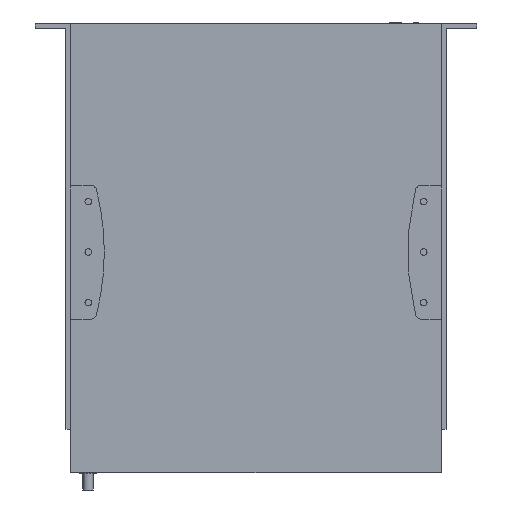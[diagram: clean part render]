
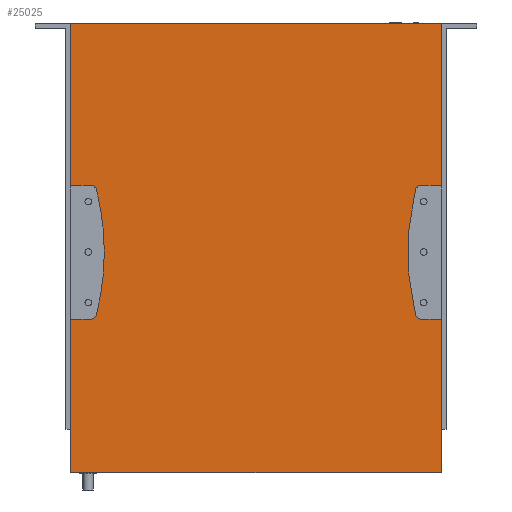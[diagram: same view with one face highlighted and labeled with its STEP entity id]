
A CAD part, front view. The second image highlights one B-rep face of the part: STEP entity #25025.
In plain terms, the highlighted planar face has unit normal (0, -1, 0).
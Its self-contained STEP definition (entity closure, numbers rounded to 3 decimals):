
#200 = VERTEX_POINT ( 'NONE', #12041 ) ;
#451 = VERTEX_POINT ( 'NONE', #23998 ) ;
#642 = CARTESIAN_POINT ( 'NONE',  ( -110.07, -21.8, 133.295 ) ) ;
#735 = CARTESIAN_POINT ( 'NONE',  ( 98.378, -21.8, 37.5 ) ) ;
#1147 = CARTESIAN_POINT ( 'NONE',  ( -110.07, -21.8, 37.5 ) ) ;
#1976 = ORIENTED_EDGE ( 'NONE', *, *, #27019, .F. ) ;
#2018 = EDGE_CURVE ( 'NONE', #8592, #12194, #12405, .T. ) ;
#2043 = CIRCLE ( 'NONE', #9199, 149.8 ) ;
#2244 = VECTOR ( 'NONE', #13650, 1000. ) ;
#2313 = LINE ( 'NONE', #26977, #15128 ) ;
#2439 = EDGE_CURVE ( 'NONE', #3579, #5953, #6241, .T. ) ;
#2989 = CIRCLE ( 'NONE', #15888, 3.8 ) ;
#3000 = AXIS2_PLACEMENT_3D ( 'NONE', #24774, #15666, #10720 ) ;
#3080 = LINE ( 'NONE', #12188, #21717 ) ;
#3166 = DIRECTION ( 'NONE',  ( 1., 0., 0. ) ) ;
#3579 = VERTEX_POINT ( 'NONE', #6889 ) ;
#3904 = LINE ( 'NONE', #29282, #22609 ) ;
#4401 = DIRECTION ( 'NONE',  ( -1., 0., 0. ) ) ;
#4437 = VERTEX_POINT ( 'NONE', #735 ) ;
#4547 = EDGE_CURVE ( 'NONE', #4437, #13054, #4924, .T. ) ;
#4557 = CARTESIAN_POINT ( 'NONE',  ( 110.07, -21.8, 133.295 ) ) ;
#4924 = CIRCLE ( 'NONE', #3000, 3.8 ) ;
#4982 = DIRECTION ( 'NONE',  ( 0., 1., 0. ) ) ;
#5336 = CARTESIAN_POINT ( 'NONE',  ( -98.378, -21.8, -42.1 ) ) ;
#5590 = ORIENTED_EDGE ( 'NONE', *, *, #18403, .T. ) ;
#5646 = EDGE_LOOP ( 'NONE', ( #1976, #28243, #22172, #9528, #19518, #9094, #6579, #22085, #26302, #25399, #23699, #12736, #24189, #11889, #6294, #22659, #5590 ) ) ;
#5842 = CARTESIAN_POINT ( 'NONE',  ( 110.07, -21.8, -42.1 ) ) ;
#5953 = VERTEX_POINT ( 'NONE', #21155 ) ;
#6119 = CARTESIAN_POINT ( 'NONE',  ( -98.378, -21.8, 33.7 ) ) ;
#6241 = CIRCLE ( 'NONE', #13842, 149.8 ) ;
#6294 = ORIENTED_EDGE ( 'NONE', *, *, #19382, .F. ) ;
#6499 = EDGE_CURVE ( 'NONE', #21455, #7834, #3080, .T. ) ;
#6579 = ORIENTED_EDGE ( 'NONE', *, *, #17112, .F. ) ;
#6731 = VERTEX_POINT ( 'NONE', #11138 ) ;
#6795 = LINE ( 'NONE', #4557, #2244 ) ;
#6889 = CARTESIAN_POINT ( 'NONE',  ( -94.695, -21.8, -39.237 ) ) ;
#6925 = CIRCLE ( 'NONE', #16905, 149.8 ) ;
#7255 = CARTESIAN_POINT ( 'NONE',  ( -98.378, -21.8, -42.1 ) ) ;
#7430 = CARTESIAN_POINT ( 'NONE',  ( -110.07, -21.8, 133.295 ) ) ;
#7834 = VERTEX_POINT ( 'NONE', #5842 ) ;
#8031 = CARTESIAN_POINT ( 'NONE',  ( 110.07, -21.8, 133.295 ) ) ;
#8485 = VERTEX_POINT ( 'NONE', #18335 ) ;
#8592 = VERTEX_POINT ( 'NONE', #7430 ) ;
#8914 = LINE ( 'NONE', #18026, #21594 ) ;
#9094 = ORIENTED_EDGE ( 'NONE', *, *, #27003, .F. ) ;
#9118 = CARTESIAN_POINT ( 'NONE',  ( 94.695, -21.8, -39.237 ) ) ;
#9199 = AXIS2_PLACEMENT_3D ( 'NONE', #10027, #14800, #10624 ) ;
#9528 = ORIENTED_EDGE ( 'NONE', *, *, #23748, .F. ) ;
#9696 = DIRECTION ( 'NONE',  ( 0., -1., 0. ) ) ;
#9734 = VERTEX_POINT ( 'NONE', #1147 ) ;
#9778 = CARTESIAN_POINT ( 'NONE',  ( 110.07, -21.8, 133.295 ) ) ;
#9852 = VECTOR ( 'NONE', #23620, 1000. ) ;
#10027 = CARTESIAN_POINT ( 'NONE',  ( -239.87, -21.8, -2.3 ) ) ;
#10624 = DIRECTION ( 'NONE',  ( -1., 0., 0. ) ) ;
#10720 = DIRECTION ( 'NONE',  ( 1., 0., 0. ) ) ;
#11138 = CARTESIAN_POINT ( 'NONE',  ( 110.07, -21.8, 37.5 ) ) ;
#11506 = AXIS2_PLACEMENT_3D ( 'NONE', #28182, #26870, #15520 ) ;
#11889 = ORIENTED_EDGE ( 'NONE', *, *, #25703, .F. ) ;
#12041 = CARTESIAN_POINT ( 'NONE',  ( -110.07, -21.8, -42.1 ) ) ;
#12080 = EDGE_CURVE ( 'NONE', #8485, #451, #2989, .T. ) ;
#12188 = CARTESIAN_POINT ( 'NONE',  ( 98.378, -21.8, -42.1 ) ) ;
#12194 = VERTEX_POINT ( 'NONE', #9778 ) ;
#12405 = LINE ( 'NONE', #21500, #20031 ) ;
#12736 = ORIENTED_EDGE ( 'NONE', *, *, #16356, .F. ) ;
#13001 = DIRECTION ( 'NONE',  ( -1., 0., 0. ) ) ;
#13054 = VERTEX_POINT ( 'NONE', #16392 ) ;
#13650 = DIRECTION ( 'NONE',  ( 0., 0., -1. ) ) ;
#13842 = AXIS2_PLACEMENT_3D ( 'NONE', #16704, #9696, #28183 ) ;
#14222 = DIRECTION ( 'NONE',  ( -1., 0., 0. ) ) ;
#14391 = DIRECTION ( 'NONE',  ( 0., -1., 0. ) ) ;
#14402 = DIRECTION ( 'NONE',  ( 1., 0., 0. ) ) ;
#14800 = DIRECTION ( 'NONE',  ( 0., -1., 0. ) ) ;
#14867 = DIRECTION ( 'NONE',  ( 0., 0., -1. ) ) ;
#15128 = VECTOR ( 'NONE', #4401, 1000. ) ;
#15270 = EDGE_CURVE ( 'NONE', #8592, #9734, #21958, .T. ) ;
#15340 = VERTEX_POINT ( 'NONE', #9118 ) ;
#15520 = DIRECTION ( 'NONE',  ( 1., 0., 0. ) ) ;
#15597 = EDGE_CURVE ( 'NONE', #15340, #21455, #25826, .T. ) ;
#15666 = DIRECTION ( 'NONE',  ( 0., -1., 0. ) ) ;
#15766 = DIRECTION ( 'NONE',  ( 1., 0., 0. ) ) ;
#15888 = AXIS2_PLACEMENT_3D ( 'NONE', #6119, #22234, #22072 ) ;
#16356 = EDGE_CURVE ( 'NONE', #5953, #8485, #2043, .T. ) ;
#16392 = CARTESIAN_POINT ( 'NONE',  ( 94.695, -21.8, 34.637 ) ) ;
#16676 = LINE ( 'NONE', #8031, #16865 ) ;
#16704 = CARTESIAN_POINT ( 'NONE',  ( -239.87, -21.8, -2.3 ) ) ;
#16865 = VECTOR ( 'NONE', #14867, 1000. ) ;
#16905 = AXIS2_PLACEMENT_3D ( 'NONE', #18897, #14391, #28003 ) ;
#17112 = EDGE_CURVE ( 'NONE', #12194, #6731, #16676, .T. ) ;
#17445 = AXIS2_PLACEMENT_3D ( 'NONE', #18313, #22799, #24901 ) ;
#18026 = CARTESIAN_POINT ( 'NONE',  ( -110.07, -21.8, -133.295 ) ) ;
#18313 = CARTESIAN_POINT ( 'NONE',  ( -98.378, -21.8, -38.3 ) ) ;
#18335 = CARTESIAN_POINT ( 'NONE',  ( -94.695, -21.8, 34.637 ) ) ;
#18403 = EDGE_CURVE ( 'NONE', #24608, #28517, #8914, .T. ) ;
#18897 = CARTESIAN_POINT ( 'NONE',  ( 239.87, -21.8, -2.3 ) ) ;
#18949 = LINE ( 'NONE', #5336, #25986 ) ;
#19382 = EDGE_CURVE ( 'Edge4', #200, #24754, #18949, .T. ) ;
#19518 = ORIENTED_EDGE ( 'NONE', *, *, #4547, .F. ) ;
#19769 = AXIS2_PLACEMENT_3D ( 'NONE', #642, #4982, #14222 ) ;
#20031 = VECTOR ( 'NONE', #3166, 1000. ) ;
#20395 = EDGE_CURVE ( 'NONE', #451, #9734, #3904, .T. ) ;
#21076 = PLANE ( 'NONE',  #19769 ) ;
#21084 = CARTESIAN_POINT ( 'NONE',  ( 98.378, -21.8, -42.1 ) ) ;
#21124 = CARTESIAN_POINT ( 'NONE',  ( 110.07, -21.8, -133.295 ) ) ;
#21155 = CARTESIAN_POINT ( 'NONE',  ( -90.07, -21.8, -2.3 ) ) ;
#21168 = DIRECTION ( 'NONE',  ( 1., 0., 0. ) ) ;
#21455 = VERTEX_POINT ( 'NONE', #21084 ) ;
#21500 = CARTESIAN_POINT ( 'NONE',  ( -110.07, -21.8, 133.295 ) ) ;
#21594 = VECTOR ( 'NONE', #15766, 1000. ) ;
#21717 = VECTOR ( 'NONE', #14402, 1000. ) ;
#21958 = LINE ( 'NONE', #29439, #26631 ) ;
#22072 = DIRECTION ( 'NONE',  ( -1., 0., 0. ) ) ;
#22085 = ORIENTED_EDGE ( 'NONE', *, *, #2018, .F. ) ;
#22172 = ORIENTED_EDGE ( 'NONE', *, *, #15597, .F. ) ;
#22234 = DIRECTION ( 'NONE',  ( 0., -1., 0. ) ) ;
#22547 = DIRECTION ( 'NONE',  ( 0., 0., -1. ) ) ;
#22609 = VECTOR ( 'NONE', #13001, 1000. ) ;
#22659 = ORIENTED_EDGE ( 'NONE', *, *, #29398, .T. ) ;
#22799 = DIRECTION ( 'NONE',  ( 0., -1., 0. ) ) ;
#23484 = FACE_OUTER_BOUND ( 'NONE', #5646, .T. ) ;
#23620 = DIRECTION ( 'NONE',  ( 0., 0., -1. ) ) ;
#23699 = ORIENTED_EDGE ( 'NONE', *, *, #12080, .F. ) ;
#23748 = EDGE_CURVE ( 'NONE', #13054, #15340, #6925, .T. ) ;
#23767 = CARTESIAN_POINT ( 'NONE',  ( -110.07, -21.8, 133.295 ) ) ;
#23998 = CARTESIAN_POINT ( 'NONE',  ( -98.378, -21.8, 37.5 ) ) ;
#24189 = ORIENTED_EDGE ( 'NONE', *, *, #2439, .F. ) ;
#24608 = VERTEX_POINT ( 'NONE', #28327 ) ;
#24754 = VERTEX_POINT ( 'NONE', #7255 ) ;
#24774 = CARTESIAN_POINT ( 'NONE',  ( 98.378, -21.8, 33.7 ) ) ;
#24901 = DIRECTION ( 'NONE',  ( -1., 0., 0. ) ) ;
#25025 = ADVANCED_FACE ( 'NONE', ( #23484 ), #21076, .F. ) ;
#25399 = ORIENTED_EDGE ( 'NONE', *, *, #20395, .F. ) ;
#25703 = EDGE_CURVE ( 'NONE', #24754, #3579, #26532, .T. ) ;
#25826 = CIRCLE ( 'NONE', #11506, 3.8 ) ;
#25860 = LINE ( 'NONE', #23767, #9852 ) ;
#25986 = VECTOR ( 'NONE', #21168, 1000. ) ;
#26302 = ORIENTED_EDGE ( 'NONE', *, *, #15270, .T. ) ;
#26532 = CIRCLE ( 'NONE', #17445, 3.8 ) ;
#26631 = VECTOR ( 'NONE', #22547, 1000. ) ;
#26870 = DIRECTION ( 'NONE',  ( 0., -1., 0. ) ) ;
#26977 = CARTESIAN_POINT ( 'NONE',  ( 98.378, -21.8, 37.5 ) ) ;
#27003 = EDGE_CURVE ( 'NONE', #6731, #4437, #2313, .T. ) ;
#27019 = EDGE_CURVE ( 'NONE', #7834, #28517, #6795, .T. ) ;
#28003 = DIRECTION ( 'NONE',  ( 1., 0., 0. ) ) ;
#28182 = CARTESIAN_POINT ( 'NONE',  ( 98.378, -21.8, -38.3 ) ) ;
#28183 = DIRECTION ( 'NONE',  ( -1., 0., 0. ) ) ;
#28243 = ORIENTED_EDGE ( 'NONE', *, *, #6499, .F. ) ;
#28327 = CARTESIAN_POINT ( 'NONE',  ( -110.07, -21.8, -133.295 ) ) ;
#28517 = VERTEX_POINT ( 'NONE', #21124 ) ;
#29282 = CARTESIAN_POINT ( 'NONE',  ( -98.378, -21.8, 37.5 ) ) ;
#29398 = EDGE_CURVE ( 'NONE', #200, #24608, #25860, .T. ) ;
#29439 = CARTESIAN_POINT ( 'NONE',  ( -110.07, -21.8, 133.295 ) ) ;
